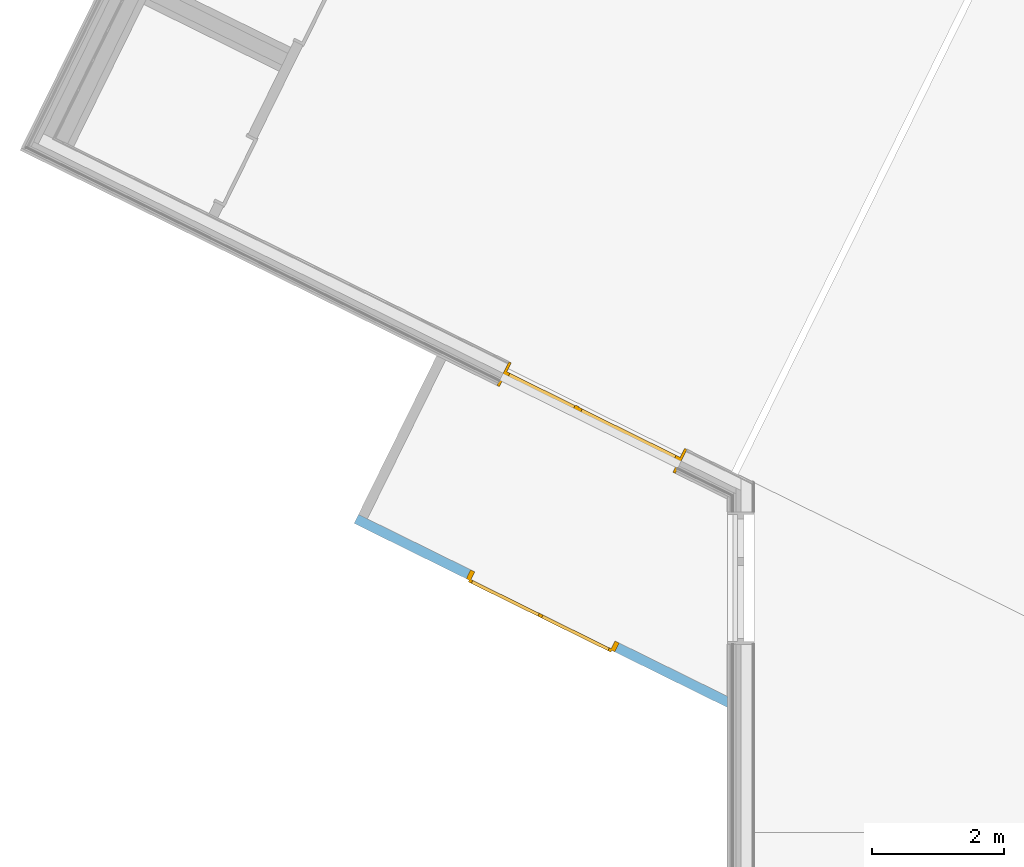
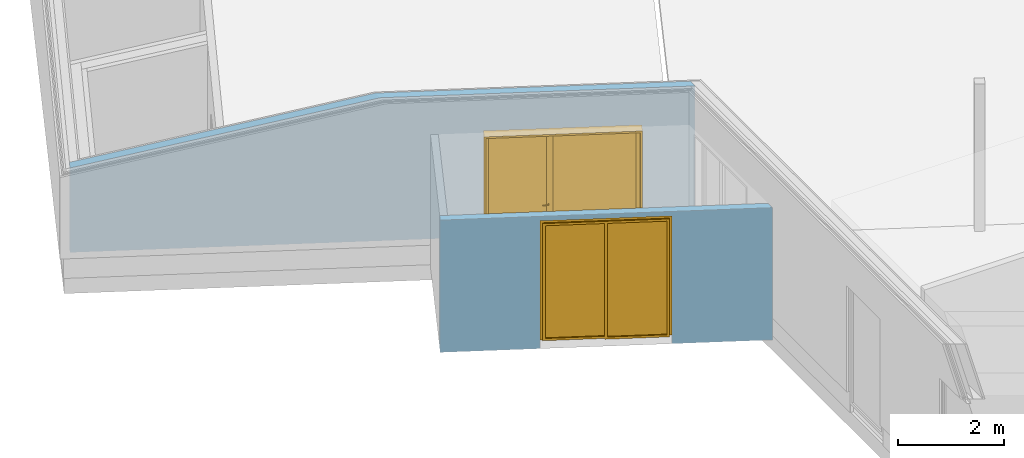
# One storey, part 15 of 23: 2 doors, 2 openings, plus 2 elements that do not belong to this part.
"""IFC4 building model written with IfcOpenShell, lengths in metres."""

from ifc_helpers import new_model, entity, si_unit, converted_unit, derived_unit, frame, origin, origin_with_axes, place, context, subcontext, project, spatial, polyline, outline, extrude, clip, bounded_halfspace, closed_shell, open_shell, surface_model, source, transform, mapped, material, type_object, element, fill, save


model = new_model("IFC4")

# Units and contexts
model_context = context("Model", 3, precision=1e-05, world=origin())
body_context = subcontext(model_context, "Body", "Model", "MODEL_VIEW")
ifc_project = project(units=[si_unit("LENGTHUNIT", "METRE"), si_unit("AREAUNIT", "SQUARE_METRE"), si_unit("VOLUMEUNIT", "CUBIC_METRE"), si_unit("MASSUNIT", "GRAM", prefix="KILO"), converted_unit("PLANEANGLEUNIT", "DEGREE", entity("IfcPlaneAngleMeasure", 0.0174532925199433), si_unit("PLANEANGLEUNIT", "RADIAN"), dimensions=[0, 0, 0, 0, 0, 0, 0]), derived_unit("THERMALTRANSMITTANCEUNIT", [(si_unit("POWERUNIT", "WATT"), 1), (si_unit("THERMODYNAMICTEMPERATUREUNIT", "KELVIN"), -1), (si_unit("LENGTHUNIT", "METRE"), -2)]), derived_unit("VOLUMETRICFLOWRATEUNIT", [(si_unit("LENGTHUNIT", "METRE"), 3), (converted_unit("TIMEUNIT", "hour", entity("IfcTimeMeasure", 3600.0), si_unit("TIMEUNIT", "SECOND"), dimensions=[0, 0, 1, 0, 0, 0, 0]), -1), (si_unit("LENGTHUNIT", "METRE"), -1)])], contexts=[model_context])

# Site, building, storey
site_placement = place(None, origin())
site = spatial("IfcSite", under=ifc_project, at=site_placement, Name="Psychiatrie Neubau Wunstorf", CompositionType="ELEMENT")
building_placement = place(site_placement, origin())
building = spatial("IfcBuilding", under=site, at=building_placement, Name="Neubau H1 Sozialzentrum", CompositionType="ELEMENT")
storey_placement = place(building_placement, frame((0.0, 0.0, 0.7)))
storey = spatial("IfcBuildingStorey", under=building, at=storey_placement, Name="H1 Ebene 0", CompositionType="ELEMENT", Elevation=0.7)

# Wall, opening, door
ifc_material_1 = material(Name="WA-HS")
wall_1_placement = place(storey_placement, frame((-16.2507370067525, 23.3340266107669, -0.2), z_axis=(0.0, 0.0, 1.0), x_axis=(-0.896905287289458, 0.442222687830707, 0.0)))
wall_1 = element("IfcWall", 1, at=wall_1_placement, inside=storey, material=ifc_material_1, context=body_context, shape_type="Clipping", body=[
    clip(extrude(outline(polyline([(-5.00039903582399, -2.64442704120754), (1.22988708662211, -2.64442704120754), (1.22988708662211, -2.49442704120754), (-5.05913618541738, -2.49442704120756), (-5.00039903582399, -2.61354155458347), (-5.00039903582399, -2.64442704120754)])), frame((5.00039903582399, 2.64442704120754, 0.0), z_axis=(0.0, 0.0, 1.0), x_axis=(1.0, 0.0, 0.0)), (0.0, 0.0, 1.0), 3.05), bounded_halfspace(frame((-0.0203897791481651, 0.0661770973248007, 0.5), z_axis=(0.0, 0.0, -1.0), x_axis=(-0.442222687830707, 0.896905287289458, 0.0)), True, origin_with_axes(), polyline([(0.0153731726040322, 0.0), (-0.0585849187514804, 0.149999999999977), (-0.0587371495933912, 0.149999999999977), (0.0, 0.0308854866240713), (0.0, 0.0), (0.0153731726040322, 0.0)]))),
])
opening_1_placement = place(wall_1_placement, frame((4.34028612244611, 0.149999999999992, 0.0), z_axis=(6.06329801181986e-15, -1.0, 0.0), x_axis=(0.0, 0.0, 1.0)))
opening_1 = element("IfcOpeningElement", 2, at=opening_1_placement, cuts=wall_1, Name="Türöffnung", ObjectType="Opening", context=body_context, shape_type="SweptSolid", body=[
    extrude(outline(polyline([(2.95, 2.5), (2.95, 0.0), (0.0, 0.0), (0.0, 2.5), (2.95, 2.5)])), origin_with_axes(), (0.0, 0.0, 1.0), 0.149999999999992),
])
ifc_material_2 = material(Name="TI-1F-UZ-ZK")
door_type = type_object("IfcDoorType", Name="SMT", OperationType="DOUBLE_DOOR_SINGLE_SWING", ParameterTakesPrecedence=False, PredefinedType="DOOR")
shared_shape_1 = source(origin_with_axes(), body_context, "Body", "SurfaceModel", [
    surface_model("IfcShellBasedSurfaceModel", [(2.5, 0.149999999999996, 2.95), (2.43, 0.149999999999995, 2.95), (2.43, 0.149999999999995, 0.2), (2.5, 0.149999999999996, 0.2), (2.5, 0.0, 0.2), (2.43, 0.0, 0.2), (2.43, 0.0, 2.95), (2.5, 0.0, 2.95)], [closed_shell([[[0, 1, 2, 3]], [[4, 5, 6, 7]], [[3, 4, 7, 0]], [[2, 5, 4, 3]], [[1, 6, 5, 2]], [[0, 7, 6, 1]]], orient=[[False], [False], [False], [False], [False], [False]])]),
    surface_model("IfcShellBasedSurfaceModel", [(0.07, 0.149999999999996, 2.95), (0.0, 0.149999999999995, 2.95), (0.0, 0.149999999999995, 0.2), (0.07, 0.149999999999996, 0.2), (0.0700000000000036, 0.0, 0.2), (0.0, 0.0, 0.2), (0.0, 0.0, 2.95), (0.0700000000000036, 0.0, 2.95)], [closed_shell([[[0, 1, 2, 3]], [[4, 5, 6, 7]], [[3, 4, 7, 0]], [[2, 5, 4, 3]], [[1, 6, 5, 2]], [[0, 7, 6, 1]]], orient=[[False], [False], [False], [False], [False], [False]])]),
    surface_model("IfcShellBasedSurfaceModel", [(2.43, 0.149999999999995, 2.95), (0.07, 0.149999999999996, 2.95), (0.07, 0.149999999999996, 2.88), (2.43, 0.149999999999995, 2.88), (2.43, 0.0, 2.88), (0.0700000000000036, 0.0, 2.88), (0.0700000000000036, 0.0, 2.95), (2.43, 0.0, 2.95)], [closed_shell([[[0, 1, 2, 3]], [[4, 5, 6, 7]], [[3, 4, 7, 0]], [[2, 5, 4, 3]], [[1, 6, 5, 2]], [[0, 7, 6, 1]]], orient=[[False], [False], [False], [False], [False], [False]])]),
    surface_model("IfcShellBasedSurfaceModel", [(2.45, 0.179999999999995, 2.9), (2.4, 0.179999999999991, 2.9), (2.4, 0.179999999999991, 0.2), (2.45, 0.179999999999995, 0.2), (2.45, 0.13, 0.2), (2.4, 0.129999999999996, 0.2), (2.4, 0.129999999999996, 2.9), (2.45, 0.13, 2.9)], [closed_shell([[[0, 1, 2, 3]], [[4, 5, 6, 7]], [[3, 4, 7, 0]], [[2, 5, 4, 3]], [[1, 6, 5, 2]], [[0, 7, 6, 1]]], orient=[[False], [False], [False], [False], [False], [False]])]),
    surface_model("IfcShellBasedSurfaceModel", [(1.2805, 0.179999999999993, 2.9), (1.2305, 0.179999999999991, 2.9), (1.2305, 0.179999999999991, 0.2), (1.2805, 0.179999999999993, 0.2), (1.2805, 0.129999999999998, 0.2), (1.2305, 0.13, 0.2), (1.2305, 0.13, 2.9), (1.2805, 0.129999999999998, 2.9)], [closed_shell([[[0, 1, 2, 3]], [[4, 5, 6, 7]], [[3, 4, 7, 0]], [[2, 5, 4, 3]], [[1, 6, 5, 2]], [[0, 7, 6, 1]]], orient=[[False], [False], [False], [False], [False], [False]])]),
    surface_model("IfcShellBasedSurfaceModel", [(2.4, 0.179999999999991, 0.25), (1.2805, 0.179999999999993, 0.25), (1.2805, 0.179999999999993, 0.2), (2.4, 0.179999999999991, 0.2), (2.4, 0.129999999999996, 0.2), (1.2805, 0.129999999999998, 0.2), (1.2805, 0.129999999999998, 0.25), (2.4, 0.129999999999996, 0.25)], [closed_shell([[[0, 1, 2, 3]], [[4, 5, 6, 7]], [[3, 4, 7, 0]], [[2, 5, 4, 3]], [[1, 6, 5, 2]], [[0, 7, 6, 1]]], orient=[[False], [False], [False], [False], [False], [False]])]),
    surface_model("IfcShellBasedSurfaceModel", [(2.4, 0.179999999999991, 2.9), (1.2805, 0.179999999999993, 2.9), (1.2805, 0.179999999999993, 2.85), (2.4, 0.179999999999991, 2.85), (2.4, 0.129999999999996, 2.85), (1.2805, 0.129999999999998, 2.85), (1.2805, 0.129999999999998, 2.9), (2.4, 0.129999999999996, 2.9)], [closed_shell([[[0, 1, 2, 3]], [[4, 5, 6, 7]], [[3, 4, 7, 0]], [[2, 5, 4, 3]], [[1, 6, 5, 2]], [[0, 7, 6, 1]]], orient=[[False], [False], [False], [False], [False], [False]])]),
    surface_model("IfcShellBasedSurfaceModel", [(1.2695, 0.179999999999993, 2.9), (1.2195, 0.179999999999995, 2.9), (1.2195, 0.179999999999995, 0.18), (1.2695, 0.179999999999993, 0.18), (1.2695, 0.13, 0.18), (1.2195, 0.129999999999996, 0.18), (1.2195, 0.129999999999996, 2.9), (1.2695, 0.13, 2.9)], [closed_shell([[[0, 1, 2, 3]], [[4, 5, 6, 7]], [[3, 4, 7, 0]], [[2, 5, 4, 3]], [[1, 6, 5, 2]], [[0, 7, 6, 1]]], orient=[[False], [False], [False], [False], [False], [False]])]),
    surface_model("IfcShellBasedSurfaceModel", [(0.1, 0.179999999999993, 2.9), (0.05, 0.179999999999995, 2.9), (0.05, 0.179999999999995, 0.18), (0.1, 0.179999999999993, 0.18), (0.1, 0.129999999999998, 0.18), (0.0500000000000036, 0.129999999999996, 0.18), (0.05, 0.13, 2.9), (0.1, 0.129999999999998, 2.9)], [closed_shell([[[0, 1, 2, 3]], [[4, 5, 6, 7]], [[3, 4, 7, 0]], [[2, 5, 4, 3]], [[1, 6, 5, 2]], [[0, 7, 6, 1]]], orient=[[False], [False], [False], [False], [False], [False]])]),
    surface_model("IfcShellBasedSurfaceModel", [(1.2195, 0.179999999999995, 0.23), (0.1, 0.179999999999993, 0.23), (0.1, 0.179999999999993, 0.18), (1.2195, 0.179999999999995, 0.18), (1.2195, 0.129999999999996, 0.18), (0.1, 0.129999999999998, 0.18), (0.1, 0.129999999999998, 0.23), (1.2195, 0.129999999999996, 0.23)], [closed_shell([[[0, 1, 2, 3]], [[4, 5, 6, 7]], [[3, 4, 7, 0]], [[2, 5, 4, 3]], [[1, 6, 5, 2]], [[0, 7, 6, 1]]], orient=[[False], [False], [False], [False], [False], [False]])]),
    surface_model("IfcShellBasedSurfaceModel", [(1.2195, 0.179999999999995, 2.9), (0.1, 0.179999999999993, 2.9), (0.1, 0.179999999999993, 2.85), (1.2195, 0.179999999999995, 2.85), (1.2195, 0.129999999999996, 2.85), (0.1, 0.129999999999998, 2.85), (0.1, 0.129999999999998, 2.9), (1.2195, 0.129999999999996, 2.9)], [closed_shell([[[0, 1, 2, 3]], [[4, 5, 6, 7]], [[3, 4, 7, 0]], [[2, 5, 4, 3]], [[1, 6, 5, 2]], [[0, 7, 6, 1]]], orient=[[False], [False], [False], [False], [False], [False]])]),
    surface_model("IfcShellBasedSurfaceModel", [(2.4, 0.154999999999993, 0.25), (2.4, 0.154999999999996, 2.85), (1.2805, 0.154999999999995, 2.85), (1.2805, 0.154999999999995, 0.25)], [open_shell([[[0, 1, 2, 3]]], orient=[[False]])]),
    surface_model("IfcShellBasedSurfaceModel", [(1.2195, 0.154999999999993, 0.23), (1.2195, 0.154999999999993, 2.85), (0.1, 0.154999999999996, 2.85), (0.1, 0.154999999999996, 0.23)], [open_shell([[[0, 1, 2, 3]]], orient=[[False]])]),
])
door_1_placement = place(opening_1_placement, frame((0.0, 2.5, 0.149999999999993), z_axis=(1.0, 0.0, 0.0), x_axis=(0.0, -1.0, 3.33066907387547e-15)))
door_1 = element("IfcDoor", 3, at=door_1_placement, inside=storey, type_object=door_type, material=ifc_material_2, Name="SMT", OverallHeight=2.95, OverallWidth=2.5, context=body_context, shape_type="MappedRepresentation", body=[
    mapped(shared_shape_1, transform((0.0, 0.0, 0.0), x_axis=(1.0, 0.0, 0.0), y_axis=(0.0, 1.0, 0.0), z_axis=(0.0, 0.0, 1.0), scale=1.0)),
])
fill(opening_1, door_1)

ifc_material_3 = material(Name="WA-HD")
wall_2_placement = place(storey_placement, frame((-16.0585259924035, 26.6278302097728, 0.3), z_axis=(0.0, 0.0, 1.0), x_axis=(-0.896905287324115, 0.442222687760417, 0.0)))
wall_2 = element("IfcWall", 4, at=wall_2_placement, inside=storey, material=ifc_material_3, context=body_context, shape_type="Clipping", body=[
    clip(extrude(outline(polyline([(-9.44264401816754, -4.85462836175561), (2.31470535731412, -4.85462836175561), (2.31470535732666, -4.69462904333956), (-9.52153231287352, -4.69462904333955), (-9.44264401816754, -4.85462836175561)])), frame((9.44264401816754, 4.85462836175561, 0.0), z_axis=(0.0, 0.0, 1.0), x_axis=(1.0, 0.0, 0.0)), (0.0, 0.0, 1.0), 3.3), bounded_halfspace(frame((8.84099800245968, 0.0799996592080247, 2.6292391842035), z_axis=(-0.222899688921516, -0.105378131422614, -0.96912908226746), x_axis=(0.427404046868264, -0.904060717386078, 0.0)), True, origin_with_axes(), polyline([(5.88682596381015, 0.159999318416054), (5.96246729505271, 0.0), (11.7573493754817, 0.0), (11.7573493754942, 0.159999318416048), (5.88682596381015, 0.159999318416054)]))),
])
opening_2_placement = place(wall_2_placement, frame((3.92866325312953, 0.159999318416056, -0.5), z_axis=(-8.52654915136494e-15, -1.0, 0.0), x_axis=(0.0, 0.0, 1.0)))
opening_2 = element("IfcOpeningElement", 5, at=opening_2_placement, cuts=wall_2, Name="Türöffnung", ObjectType="Opening", context=body_context, shape_type="SweptSolid", body=[
    extrude(outline(polyline([(2.95, 2.9999894), (2.95, 0.0), (0.0, 0.0), (0.0, 2.9999894), (2.95, 2.9999894)])), origin_with_axes(), (0.0, 0.0, 1.0), 0.159999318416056),
])
ifc_material_4 = material(Name="TI-1F-UZ-ZK")
shared_shape_2 = source(origin_with_axes(), body_context, "Body", "SurfaceModel", [
    surface_model("IfcShellBasedSurfaceModel", [(2.99998939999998, 0.402000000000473, 2.95), (2.95998939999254, 0.402000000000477, 2.95), (2.95998939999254, 0.402000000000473, 0.2), (2.99998939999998, 0.402000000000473, 0.2), (2.99998939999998, 1.38884292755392e-06, 0.2), (2.95998939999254, 1.38884293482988e-06, 0.2), (2.95998939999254, 1.38884293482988e-06, 2.95), (2.99998939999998, 1.38884292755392e-06, 2.95)], [closed_shell([[[0, 1, 2, 3]], [[4, 5, 6, 7]], [[3, 4, 7, 0]], [[2, 5, 4, 3]], [[1, 6, 5, 2]], [[0, 7, 6, 1]]], orient=[[False], [False], [False], [False], [False], [False]])]),
    surface_model("IfcShellBasedSurfaceModel", [(0.0400000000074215, 0.402000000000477, 2.95), (0.0, 0.402000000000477, 2.95), (0.0, 0.402000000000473, 0.2), (0.0400000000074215, 0.402000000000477, 0.2), (0.0400000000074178, 1.3888429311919e-06, 0.2), (0.0, 1.38884293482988e-06, 0.2), (0.0, 1.38884293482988e-06, 2.95), (0.0400000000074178, 1.3888429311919e-06, 2.95)], [closed_shell([[[0, 1, 2, 3]], [[4, 5, 6, 7]], [[3, 4, 7, 0]], [[2, 5, 4, 3]], [[1, 6, 5, 2]], [[0, 7, 6, 1]]], orient=[[False], [False], [False], [False], [False], [False]])]),
    surface_model("IfcShellBasedSurfaceModel", [(2.95998939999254, 0.402000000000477, 2.95), (0.0400000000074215, 0.402000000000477, 2.95), (0.0400000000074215, 0.402000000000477, 2.91), (2.95998939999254, 0.402000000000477, 2.91), (2.95998939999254, 1.38884293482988e-06, 2.91), (0.0400000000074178, 1.3888429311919e-06, 2.91), (0.0400000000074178, 1.3888429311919e-06, 2.95), (2.95998939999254, 1.38884293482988e-06, 2.95)], [closed_shell([[[0, 1, 2, 3]], [[4, 5, 6, 7]], [[3, 4, 7, 0]], [[2, 5, 4, 3]], [[1, 6, 5, 2]], [[0, 7, 6, 1]]], orient=[[False], [False], [False], [False], [False], [False]])]),
    surface_model("IfcShellBasedSurfaceModel", [(2.97998939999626, 0.251000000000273, 2.93), (2.90998939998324, 0.251000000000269, 2.93), (2.90998939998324, 0.251000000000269, 0.2), (2.97998939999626, 0.251000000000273, 0.2), (2.97998939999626, 0.151000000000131, 0.2), (2.90998939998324, 0.151000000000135, 0.2), (2.90998939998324, 0.151000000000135, 2.93), (2.97998939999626, 0.151000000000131, 2.93)], [closed_shell([[[0, 1, 2, 3]], [[4, 5, 6, 7]], [[3, 4, 7, 0]], [[2, 5, 4, 3]], [[1, 6, 5, 2]], [[0, 7, 6, 1]]], orient=[[False], [False], [False], [False], [False], [False]])]),
    surface_model("IfcShellBasedSurfaceModel", [(1.81048932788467, 0.251000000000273, 2.93), (1.74048932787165, 0.251000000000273, 2.93), (1.74048932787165, 0.251000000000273, 0.2), (1.81048932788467, 0.251000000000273, 0.2), (1.81048932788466, 0.151000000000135, 0.2), (1.74048932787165, 0.151000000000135, 0.2), (1.74048932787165, 0.151000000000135, 2.93), (1.81048932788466, 0.151000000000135, 2.93)], [closed_shell([[[0, 1, 2, 3]], [[4, 5, 6, 7]], [[3, 4, 7, 0]], [[2, 5, 4, 3]], [[1, 6, 5, 2]], [[0, 7, 6, 1]]], orient=[[False], [False], [False], [False], [False], [False]])]),
    surface_model("IfcShellBasedSurfaceModel", [(2.90998939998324, 0.251000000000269, 0.27), (1.81048932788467, 0.251000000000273, 0.27), (1.81048932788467, 0.251000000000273, 0.2), (2.90998939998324, 0.251000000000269, 0.2), (2.90998939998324, 0.151000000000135, 0.2), (1.81048932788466, 0.151000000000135, 0.2), (1.81048932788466, 0.151000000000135, 0.27), (2.90998939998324, 0.151000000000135, 0.27)], [closed_shell([[[0, 1, 2, 3]], [[4, 5, 6, 7]], [[3, 4, 7, 0]], [[2, 5, 4, 3]], [[1, 6, 5, 2]], [[0, 7, 6, 1]]], orient=[[False], [False], [False], [False], [False], [False]])]),
    surface_model("IfcShellBasedSurfaceModel", [(2.90998939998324, 0.251000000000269, 2.93), (1.81048932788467, 0.251000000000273, 2.93), (1.81048932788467, 0.251000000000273, 2.86), (2.90998939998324, 0.251000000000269, 2.86), (2.90998939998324, 0.151000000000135, 2.86), (1.81048932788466, 0.151000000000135, 2.86), (1.81048932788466, 0.151000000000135, 2.93), (2.90998939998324, 0.151000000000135, 2.93)], [closed_shell([[[0, 1, 2, 3]], [[4, 5, 6, 7]], [[3, 4, 7, 0]], [[2, 5, 4, 3]], [[1, 6, 5, 2]], [[0, 7, 6, 1]]], orient=[[False], [False], [False], [False], [False], [False]])]),
    surface_model("IfcShellBasedSurfaceModel", [(1.80048932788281, 0.151000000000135, 1.325), (1.75048932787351, 0.151000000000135, 1.325), (1.75048932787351, 0.151000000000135, 1.11), (1.80048932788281, 0.151000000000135, 1.11), (1.80048932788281, 0.14100000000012, 1.11), (1.75048932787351, 0.14100000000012, 1.11), (1.75048932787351, 0.14100000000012, 1.325), (1.80048932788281, 0.14100000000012, 1.325)], [closed_shell([[[0, 1, 2, 3]], [[4, 5, 6, 7]], [[3, 4, 7, 0]], [[2, 5, 4, 3]], [[1, 6, 5, 2]], [[0, 7, 6, 1]]], orient=[[False], [False], [False], [False], [False], [False]])]),
    surface_model("IfcShellBasedSurfaceModel", [(1.77548932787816, 0.14100000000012, 1.26), (1.77048932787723, 0.14100000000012, 1.25866025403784), (1.7668290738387, 0.14100000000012, 1.255), (1.7654893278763, 0.14100000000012, 1.25), (1.7668290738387, 0.14100000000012, 1.245), (1.77048932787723, 0.14100000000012, 1.24133974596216), (1.77548932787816, 0.14100000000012, 1.24), (1.78048932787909, 0.14100000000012, 1.24133974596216), (1.78414958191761, 0.14100000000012, 1.245), (1.78548932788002, 0.14100000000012, 1.25), (1.78414958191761, 0.14100000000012, 1.255), (1.78048932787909, 0.14100000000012, 1.25866025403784), (1.77548932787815, 0.101000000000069, 1.26), (1.77048932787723, 0.0960000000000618, 1.25866025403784), (1.7668290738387, 0.0923397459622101, 1.255), (1.7654893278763, 0.0910000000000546, 1.25), (1.7668290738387, 0.0923397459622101, 1.245), (1.77048932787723, 0.0960000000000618, 1.24133974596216), (1.77548932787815, 0.101000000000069, 1.24), (1.78048932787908, 0.106000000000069, 1.24133974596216), (1.78414958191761, 0.109660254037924, 1.245), (1.78548932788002, 0.111000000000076, 1.25), (1.78414958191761, 0.109660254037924, 1.255), (1.78048932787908, 0.106000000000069, 1.25866025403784), (1.89048932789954, 0.101000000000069, 1.26), (1.89048932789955, 0.106000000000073, 1.25866025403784), (1.89048932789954, 0.109660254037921, 1.255), (1.89048932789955, 0.111000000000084, 1.25), (1.89048932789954, 0.109660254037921, 1.245), (1.89048932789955, 0.106000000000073, 1.24133974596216), (1.89048932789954, 0.101000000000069, 1.24), (1.89048932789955, 0.0960000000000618, 1.24133974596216), (1.89048932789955, 0.0923397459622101, 1.245), (1.89048932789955, 0.0910000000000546, 1.25), (1.89048932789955, 0.0923397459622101, 1.255), (1.89048932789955, 0.0960000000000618, 1.25866025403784)], [closed_shell([[[0, 1, 2, 3, 4, 5, 6, 7, 8, 9, 10, 11]], [[0, 12, 13, 1]], [[1, 13, 14, 2]], [[2, 14, 15, 3]], [[3, 15, 16, 4]], [[4, 16, 17, 5]], [[5, 17, 18, 6]], [[6, 18, 19, 7]], [[7, 19, 20, 8]], [[8, 20, 21, 9]], [[9, 21, 22, 10]], [[10, 22, 23, 11]], [[11, 23, 12, 0]], [[24, 25, 26, 27, 28, 29, 30, 31, 32, 33, 34, 35]], [[12, 24, 35, 13]], [[13, 35, 34, 14]], [[14, 34, 33, 15]], [[15, 33, 32, 16]], [[16, 32, 31, 17]], [[17, 31, 30, 18]], [[18, 30, 29, 19]], [[19, 29, 28, 20]], [[20, 28, 27, 21]], [[21, 27, 26, 22]], [[22, 26, 25, 23]], [[23, 25, 24, 12]]], orient=[[False], [False], [False], [False], [False], [False], [False], [False], [False], [False], [False], [False], [False], [False], [False], [False], [False], [False], [False], [False], [False], [False], [False], [False], [False], [False]])]),
    surface_model("IfcShellBasedSurfaceModel", [(1.80048932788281, 0.251000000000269, 1.325), (1.80048932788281, 0.251000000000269, 1.11), (1.7504893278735, 0.251000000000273, 1.11), (1.7504893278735, 0.251000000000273, 1.325), (1.80048932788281, 0.26100000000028, 1.11), (1.80048932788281, 0.26100000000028, 1.325), (1.75048932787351, 0.261000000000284, 1.325), (1.75048932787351, 0.261000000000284, 1.11)], [closed_shell([[[0, 1, 2, 3]], [[4, 5, 6, 7]], [[1, 0, 5, 4]], [[2, 1, 4, 7]], [[3, 2, 7, 6]], [[0, 3, 6, 5]]], orient=[[False], [False], [False], [False], [False], [False]])]),
    surface_model("IfcShellBasedSurfaceModel", [(1.77548932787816, 0.261000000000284, 1.26), (1.78048932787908, 0.261000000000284, 1.25866025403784), (1.78414958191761, 0.261000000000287, 1.255), (1.78548932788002, 0.261000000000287, 1.25), (1.78414958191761, 0.261000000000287, 1.245), (1.78048932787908, 0.261000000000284, 1.24133974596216), (1.77548932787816, 0.261000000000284, 1.24), (1.77048932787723, 0.261000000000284, 1.24133974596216), (1.7668290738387, 0.261000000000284, 1.245), (1.7654893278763, 0.26100000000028, 1.25), (1.7668290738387, 0.261000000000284, 1.255), (1.77048932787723, 0.261000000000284, 1.25866025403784), (1.77048932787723, 0.306000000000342, 1.25866025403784), (1.77548932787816, 0.301000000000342, 1.26), (1.7668290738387, 0.309660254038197, 1.255), (1.7654893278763, 0.311000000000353, 1.25), (1.7668290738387, 0.309660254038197, 1.245), (1.77048932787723, 0.306000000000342, 1.24133974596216), (1.77548932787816, 0.301000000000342, 1.24), (1.78048932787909, 0.296000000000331, 1.24133974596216), (1.78414958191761, 0.292339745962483, 1.245), (1.78548932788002, 0.291000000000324, 1.25), (1.78414958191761, 0.292339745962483, 1.255), (1.78048932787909, 0.296000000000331, 1.25866025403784), (1.89048932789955, 0.301000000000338, 1.26), (1.89048932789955, 0.306000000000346, 1.25866025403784), (1.89048932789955, 0.309660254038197, 1.255), (1.89048932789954, 0.311000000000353, 1.25), (1.89048932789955, 0.309660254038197, 1.245), (1.89048932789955, 0.306000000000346, 1.24133974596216), (1.89048932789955, 0.301000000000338, 1.24), (1.89048932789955, 0.296000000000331, 1.24133974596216), (1.89048932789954, 0.292339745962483, 1.245), (1.89048932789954, 0.291000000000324, 1.25), (1.89048932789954, 0.292339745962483, 1.255), (1.89048932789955, 0.296000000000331, 1.25866025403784)], [closed_shell([[[0, 1, 2, 3, 4, 5, 6, 7, 8, 9, 10, 11]], [[0, 11, 12, 13]], [[11, 10, 14, 12]], [[10, 9, 15, 14]], [[9, 8, 16, 15]], [[8, 7, 17, 16]], [[7, 6, 18, 17]], [[6, 5, 19, 18]], [[5, 4, 20, 19]], [[4, 3, 21, 20]], [[3, 2, 22, 21]], [[2, 1, 23, 22]], [[1, 0, 13, 23]], [[24, 25, 26, 27, 28, 29, 30, 31, 32, 33, 34, 35]], [[13, 12, 25, 24]], [[12, 14, 26, 25]], [[14, 15, 27, 26]], [[15, 16, 28, 27]], [[16, 17, 29, 28]], [[17, 18, 30, 29]], [[18, 19, 31, 30]], [[19, 20, 32, 31]], [[20, 21, 33, 32]], [[21, 22, 34, 33]], [[22, 23, 35, 34]], [[23, 13, 24, 35]]], orient=[[False], [False], [False], [False], [False], [False], [False], [False], [False], [False], [False], [False], [False], [False], [False], [False], [False], [False], [False], [False], [False], [False], [False], [False], [False], [False]])]),
    surface_model("IfcShellBasedSurfaceModel", [(1.75948932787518, 0.251000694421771, 2.91), (1.68948932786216, 0.251000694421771, 2.91), (1.68948932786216, 0.251000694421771, 0.2), (1.75948932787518, 0.251000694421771, 0.2), (1.75948932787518, 0.151000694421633, 0.2), (1.68948932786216, 0.151000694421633, 0.2), (1.68948932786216, 0.151000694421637, 2.91), (1.75948932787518, 0.151000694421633, 2.91)], [closed_shell([[[0, 1, 2, 3]], [[4, 5, 6, 7]], [[3, 4, 7, 0]], [[2, 5, 4, 3]], [[1, 6, 5, 2]], [[0, 7, 6, 1]]], orient=[[False], [False], [False], [False], [False], [False]])]),
    surface_model("IfcShellBasedSurfaceModel", [(0.110000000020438, 0.251000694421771, 2.91), (0.0400000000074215, 0.251000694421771, 2.91), (0.0400000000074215, 0.251000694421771, 0.2), (0.110000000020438, 0.251000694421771, 0.2), (0.110000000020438, 0.151000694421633, 0.2), (0.0400000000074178, 0.151000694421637, 0.2), (0.0400000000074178, 0.151000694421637, 2.91), (0.110000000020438, 0.151000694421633, 2.91)], [closed_shell([[[0, 1, 2, 3]], [[4, 5, 6, 7]], [[3, 4, 7, 0]], [[2, 5, 4, 3]], [[1, 6, 5, 2]], [[0, 7, 6, 1]]], orient=[[False], [False], [False], [False], [False], [False]])]),
    surface_model("IfcShellBasedSurfaceModel", [(1.68948932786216, 0.251000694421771, 0.27), (0.110000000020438, 0.251000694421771, 0.27), (0.110000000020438, 0.251000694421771, 0.2), (1.68948932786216, 0.251000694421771, 0.2), (1.68948932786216, 0.151000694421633, 0.2), (0.110000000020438, 0.151000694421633, 0.2), (0.110000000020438, 0.151000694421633, 0.27), (1.68948932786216, 0.151000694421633, 0.27)], [closed_shell([[[0, 1, 2, 3]], [[4, 5, 6, 7]], [[3, 4, 7, 0]], [[2, 5, 4, 3]], [[1, 6, 5, 2]], [[0, 7, 6, 1]]], orient=[[False], [False], [False], [False], [False], [False]])]),
    surface_model("IfcShellBasedSurfaceModel", [(1.68948932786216, 0.251000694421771, 2.91), (0.110000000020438, 0.251000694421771, 2.91), (0.110000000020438, 0.251000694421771, 2.84), (1.68948932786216, 0.251000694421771, 2.84), (1.68948932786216, 0.151000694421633, 2.84), (0.110000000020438, 0.151000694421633, 2.84), (0.110000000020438, 0.151000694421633, 2.91), (1.68948932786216, 0.151000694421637, 2.91)], [closed_shell([[[0, 1, 2, 3]], [[4, 5, 6, 7]], [[3, 4, 7, 0]], [[2, 5, 4, 3]], [[1, 6, 5, 2]], [[0, 7, 6, 1]]], orient=[[False], [False], [False], [False], [False], [False]])]),
    surface_model("IfcShellBasedSurfaceModel", [(2.90998939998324, 0.201000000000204, 0.27), (2.90998939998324, 0.201000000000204, 2.86), (1.81048932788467, 0.201000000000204, 2.86), (1.81048932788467, 0.201000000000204, 0.27)], [open_shell([[[0, 1, 2, 3]]], orient=[[False]])]),
    surface_model("IfcShellBasedSurfaceModel", [(1.68948932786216, 0.201000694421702, 0.27), (1.68948932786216, 0.201000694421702, 2.84), (0.110000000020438, 0.201000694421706, 2.84), (0.110000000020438, 0.201000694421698, 0.27)], [open_shell([[[0, 1, 2, 3]]], orient=[[False]])]),
])
door_2_placement = place(opening_2_placement, frame((0.0, 2.9999894, 0.196000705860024), z_axis=(1.0, 0.0, 0.0), x_axis=(0.0, -1.0, -1.01585406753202e-14)))
door_2 = element("IfcDoor", 6, at=door_2_placement, inside=storey, material=ifc_material_4, Name="SMT", OperationType="USERDEFINED", OverallHeight=2.95, OverallWidth=2.99999, PredefinedType="DOOR", context=body_context, shape_type="MappedRepresentation", body=[
    mapped(shared_shape_2, transform((0.0, 0.0, 0.0), x_axis=(1.0, 0.0, 0.0), y_axis=(0.0, 1.0, 0.0), z_axis=(0.0, 0.0, 1.0), scale=1.0)),
])
fill(opening_2, door_2)

save(model, "model.ifc")
